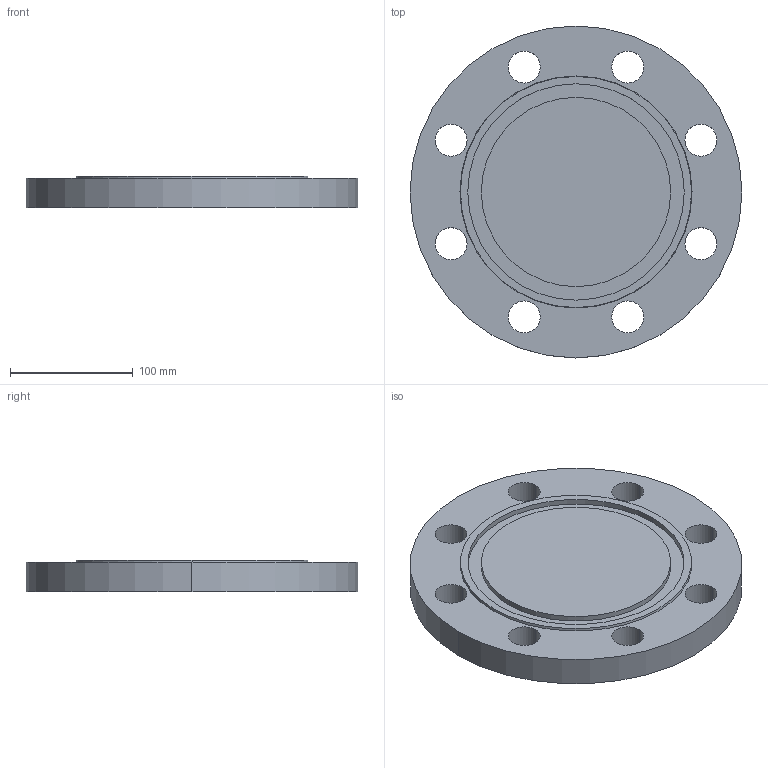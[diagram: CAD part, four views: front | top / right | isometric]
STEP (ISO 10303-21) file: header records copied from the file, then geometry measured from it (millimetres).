
FILE_DESCRIPTION (( 'STEP AP214' ), '1' );
FILE_NAME ('PN40 DN125 Type 05 - Type D Face.STEP', '2019-01-02T19:29:39', ( '' ), ( '' ), 'SwSTEP 2.0', 'SolidWorks 2019', '' );
FILE_SCHEMA (( 'AUTOMOTIVE_DESIGN' ));
Length unit declared in the file: millimetre
Products named in the file (1): PN40 DN125 Type 05 - Type D Face
Bounding box: 270 x 270 x 26 mm (x, y, z)
Volume: 1302262 mm3; surface area: 147714.8 mm2
Topology: 1 solids, 1 shells, 29 faces, 72 edges, 48 vertices
Faces by surface type: cylinder 22, plane 5, cone 2
Entity records: 960 total; most frequent: DIRECTION 180, CARTESIAN_POINT 150, ORIENTED_EDGE 144, AXIS2_PLACEMENT_3D 78, EDGE_CURVE 72, CIRCLE 48, VERTEX_POINT 48, EDGE_LOOP 48
